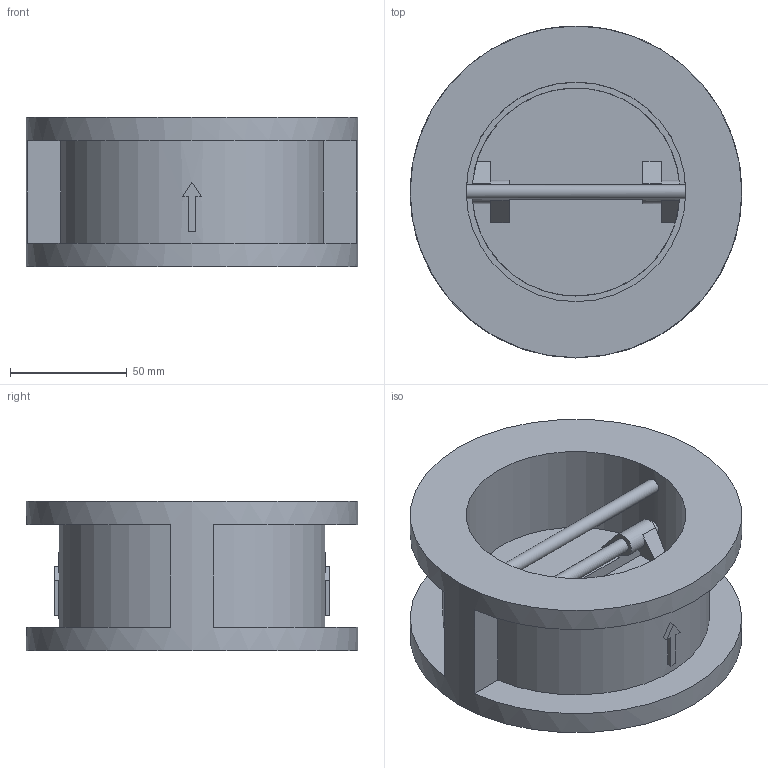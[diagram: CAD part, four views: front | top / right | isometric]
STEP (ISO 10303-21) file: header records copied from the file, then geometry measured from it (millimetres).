
FILE_DESCRIPTION(('STEP AP203'), '1');
FILE_NAME('孰囡囗 钺疣蝽 溻篚耱忸瘅囹 戾骠豚眦邂 010C.Y DN80', '', ('UNSPECIFIED'), ('UNSPECIFIED'), 'ASCON STEP Converter 1.6', 'ASCON Math Kernel', '');
FILE_SCHEMA(('CONFIG_CONTROL_DESIGN'));
Length unit declared in the file: millimetre
Bounding box: 142 x 142 x 64 mm (x, y, z)
Volume: 440428.2 mm3; surface area: 94561.8 mm2
Topology: 1 solids, 1 shells, 73 faces, 201 edges, 132 vertices
Faces by surface type: plane 55, cylinder 16, cone 2
Full cylindrical faces by diameter (mm): 6 x4, 94 x1, 142 x1
Entity records: 3594 total; most frequent: CARTESIAN_POINT 1127, ORIENTED_EDGE 388, DIRECTION 364, EDGE_CURVE 194, VERTEX_POINT 132, LINE 124, VECTOR 124, AXIS2_PLACEMENT_3D 120
